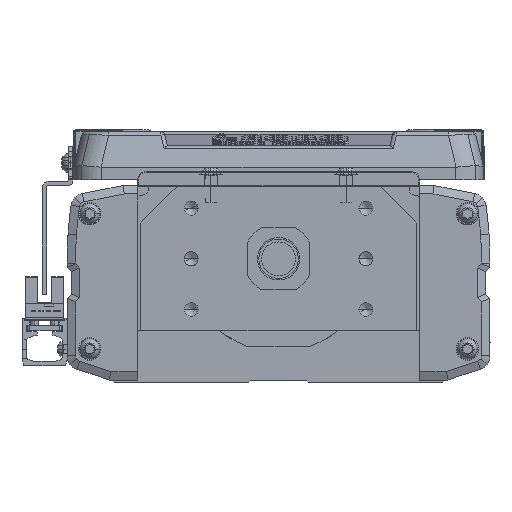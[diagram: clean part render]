
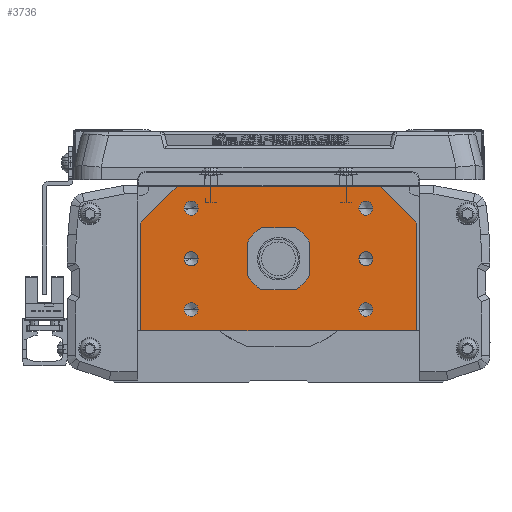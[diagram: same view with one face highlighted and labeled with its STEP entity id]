
A CAD part, left-side view. The second image highlights one B-rep face of the part: STEP entity #3736.
In plain terms, the highlighted planar face has unit normal (-1, 0, 0).
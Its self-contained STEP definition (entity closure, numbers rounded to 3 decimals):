
#3736=ADVANCED_FACE('',(#9826,#9827,#9828,#9829,#9830,#9831,#9832,#9833),#9834,.F.);
#9826=FACE_OUTER_BOUND('',#19182,.T.);
#9827=FACE_BOUND('',#19183,.T.);
#9828=FACE_BOUND('',#19184,.T.);
#9829=FACE_BOUND('',#19185,.T.);
#9830=FACE_BOUND('',#19186,.T.);
#9831=FACE_BOUND('',#19187,.T.);
#9832=FACE_BOUND('',#19188,.T.);
#9833=FACE_BOUND('',#19189,.T.);
#9834=PLANE('',#19190);
#19182=EDGE_LOOP('',(#30288,#30289,#30290,#30291,#30292,#30293,#30294,#30295));
#19183=EDGE_LOOP('',(#30296,#30297));
#19184=EDGE_LOOP('',(#30298,#30299));
#19185=EDGE_LOOP('',(#30300,#30301));
#19186=EDGE_LOOP('',(#30302,#30303));
#19187=EDGE_LOOP('',(#30304,#30305));
#19188=EDGE_LOOP('',(#30306,#30307));
#19189=EDGE_LOOP('',(#30308,#30309));
#19190=AXIS2_PLACEMENT_3D('',#30310,#30311,#30312);
#30288=ORIENTED_EDGE('',*,*,#55149,.F.);
#30289=ORIENTED_EDGE('',*,*,#55150,.F.);
#30290=ORIENTED_EDGE('',*,*,#55151,.F.);
#30291=ORIENTED_EDGE('',*,*,#55152,.F.);
#30292=ORIENTED_EDGE('',*,*,#55153,.F.);
#30293=ORIENTED_EDGE('',*,*,#55154,.F.);
#30294=ORIENTED_EDGE('',*,*,#55155,.F.);
#30295=ORIENTED_EDGE('',*,*,#55036,.F.);
#30296=ORIENTED_EDGE('',*,*,#55156,.T.);
#30297=ORIENTED_EDGE('',*,*,#55157,.T.);
#30298=ORIENTED_EDGE('',*,*,#55158,.T.);
#30299=ORIENTED_EDGE('',*,*,#55159,.T.);
#30300=ORIENTED_EDGE('',*,*,#55160,.T.);
#30301=ORIENTED_EDGE('',*,*,#55161,.T.);
#30302=ORIENTED_EDGE('',*,*,#55162,.T.);
#30303=ORIENTED_EDGE('',*,*,#55163,.T.);
#30304=ORIENTED_EDGE('',*,*,#55164,.T.);
#30305=ORIENTED_EDGE('',*,*,#55165,.T.);
#30306=ORIENTED_EDGE('',*,*,#55166,.T.);
#30307=ORIENTED_EDGE('',*,*,#55167,.T.);
#30308=ORIENTED_EDGE('',*,*,#55168,.F.);
#30309=ORIENTED_EDGE('',*,*,#55169,.F.);
#30310=CARTESIAN_POINT('',(0.,0.275,-2.548));
#30311=DIRECTION('',(1.0,0.,0.));
#30312=DIRECTION('',(0.,1.0,0.));
#55036=EDGE_CURVE('',#65763,#65766,#65767,.T.);
#55149=EDGE_CURVE('',#65964,#65763,#65965,.T.);
#55150=EDGE_CURVE('',#65966,#65964,#65967,.T.);
#55151=EDGE_CURVE('',#65968,#65966,#65969,.T.);
#55152=EDGE_CURVE('',#65970,#65968,#65971,.T.);
#55153=EDGE_CURVE('',#65972,#65970,#65973,.T.);
#55154=EDGE_CURVE('',#65974,#65972,#65975,.T.);
#55155=EDGE_CURVE('',#65766,#65974,#65976,.T.);
#55156=EDGE_CURVE('',#65977,#65978,#65979,.T.);
#55157=EDGE_CURVE('',#65978,#65977,#65980,.T.);
#55158=EDGE_CURVE('',#65981,#65982,#65983,.T.);
#55159=EDGE_CURVE('',#65982,#65981,#65984,.T.);
#55160=EDGE_CURVE('',#65985,#65986,#65987,.T.);
#55161=EDGE_CURVE('',#65986,#65985,#65988,.T.);
#55162=EDGE_CURVE('',#65989,#65990,#65991,.T.);
#55163=EDGE_CURVE('',#65990,#65989,#65992,.T.);
#55164=EDGE_CURVE('',#65993,#65994,#65995,.T.);
#55165=EDGE_CURVE('',#65994,#65993,#65996,.T.);
#55166=EDGE_CURVE('',#65997,#65998,#65999,.T.);
#55167=EDGE_CURVE('',#65998,#65997,#66000,.T.);
#55168=EDGE_CURVE('',#66001,#66002,#66003,.F.);
#55169=EDGE_CURVE('',#66002,#66001,#66004,.F.);
#65763=VERTEX_POINT('',#81069);
#65766=VERTEX_POINT('',#81073);
#65767=LINE('',#81074,#81075);
#65964=VERTEX_POINT('',#81329);
#65965=LINE('',#81330,#81331);
#65966=VERTEX_POINT('',#81332);
#65967=LINE('',#81333,#81334);
#65968=VERTEX_POINT('',#81335);
#65969=LINE('',#81336,#81337);
#65970=VERTEX_POINT('',#81338);
#65971=LINE('',#81339,#81340);
#65972=VERTEX_POINT('',#81341);
#65973=LINE('',#81342,#81343);
#65974=VERTEX_POINT('',#81344);
#65975=LINE('',#81345,#81346);
#65976=LINE('',#81347,#81348);
#65977=VERTEX_POINT('',#81349);
#65978=VERTEX_POINT('',#81350);
#65979=CIRCLE('',#81351,2.5);
#65980=CIRCLE('',#81352,2.5);
#65981=VERTEX_POINT('',#81353);
#65982=VERTEX_POINT('',#81354);
#65983=CIRCLE('',#81355,2.5);
#65984=CIRCLE('',#81356,2.5);
#65985=VERTEX_POINT('',#81357);
#65986=VERTEX_POINT('',#81358);
#65987=CIRCLE('',#81359,2.5);
#65988=CIRCLE('',#81360,2.5);
#65989=VERTEX_POINT('',#81361);
#65990=VERTEX_POINT('',#81362);
#65991=CIRCLE('',#81363,2.5);
#65992=CIRCLE('',#81364,2.5);
#65993=VERTEX_POINT('',#81365);
#65994=VERTEX_POINT('',#81366);
#65995=CIRCLE('',#81367,2.5);
#65996=CIRCLE('',#81368,2.5);
#65997=VERTEX_POINT('',#81369);
#65998=VERTEX_POINT('',#81370);
#65999=CIRCLE('',#81371,2.5);
#66000=CIRCLE('',#81372,2.5);
#66001=VERTEX_POINT('',#81373);
#66002=VERTEX_POINT('',#81374);
#66003=CIRCLE('',#81375,7.5);
#66004=CIRCLE('',#81376,7.5);
#81069=CARTESIAN_POINT('',(0.,36.,25.7));
#81073=CARTESIAN_POINT('',(0.,-36.,25.7));
#81074=CARTESIAN_POINT('',(0.,34.5,25.7));
#81075=VECTOR('',#101608,10.0);
#81329=CARTESIAN_POINT('',(0.,49.,12.7));
#81330=CARTESIAN_POINT('',(0.,37.381,24.319));
#81331=VECTOR('',#101768,10.);
#81332=CARTESIAN_POINT('',(0.,49.,-25.));
#81333=CARTESIAN_POINT('',(0.,49.,-25.));
#81334=VECTOR('',#101769,10.0);
#81335=CARTESIAN_POINT('',(0.,48.5,-25.5));
#81336=CARTESIAN_POINT('',(0.,48.5,-25.5));
#81337=VECTOR('',#101770,10.0);
#81338=CARTESIAN_POINT('',(0.,-48.5,-25.5));
#81339=CARTESIAN_POINT('',(0.,0.,-25.5));
#81340=VECTOR('',#101771,10.0);
#81341=CARTESIAN_POINT('',(0.,-49.,-25.));
#81342=CARTESIAN_POINT('',(0.,-49.,-25.));
#81343=VECTOR('',#101772,10.0);
#81344=CARTESIAN_POINT('',(0.,-49.,12.7));
#81345=CARTESIAN_POINT('',(0.,-49.,-14.));
#81346=VECTOR('',#101773,10.0);
#81347=CARTESIAN_POINT('',(0.,-37.243,24.457));
#81348=VECTOR('',#101774,10.0);
#81349=CARTESIAN_POINT('',(0.,33.5,-18.));
#81350=CARTESIAN_POINT('',(0.,28.5,-18.));
#81351=AXIS2_PLACEMENT_3D('',#101775,#101776,#101777);
#81352=AXIS2_PLACEMENT_3D('',#101778,#101779,#101780);
#81353=CARTESIAN_POINT('',(0.,-33.5,-18.));
#81354=CARTESIAN_POINT('',(0.,-28.5,-18.));
#81355=AXIS2_PLACEMENT_3D('',#101781,#101782,#101783);
#81356=AXIS2_PLACEMENT_3D('',#101784,#101785,#101786);
#81357=CARTESIAN_POINT('',(0.,33.5,18.));
#81358=CARTESIAN_POINT('',(0.,28.5,18.));
#81359=AXIS2_PLACEMENT_3D('',#101787,#101788,#101789);
#81360=AXIS2_PLACEMENT_3D('',#101790,#101791,#101792);
#81361=CARTESIAN_POINT('',(0.,-33.5,18.));
#81362=CARTESIAN_POINT('',(0.,-28.5,18.));
#81363=AXIS2_PLACEMENT_3D('',#101793,#101794,#101795);
#81364=AXIS2_PLACEMENT_3D('',#101796,#101797,#101798);
#81365=CARTESIAN_POINT('',(0.,33.5,0.));
#81366=CARTESIAN_POINT('',(0.,28.5,0.));
#81367=AXIS2_PLACEMENT_3D('',#101799,#101800,#101801);
#81368=AXIS2_PLACEMENT_3D('',#101802,#101803,#101804);
#81369=CARTESIAN_POINT('',(0.,-33.5,0.));
#81370=CARTESIAN_POINT('',(0.,-28.5,0.));
#81371=AXIS2_PLACEMENT_3D('',#101805,#101806,#101807);
#81372=AXIS2_PLACEMENT_3D('',#101808,#101809,#101810);
#81373=CARTESIAN_POINT('',(0.,7.5,0.));
#81374=CARTESIAN_POINT('',(0.,-7.5,0.));
#81375=AXIS2_PLACEMENT_3D('',#101811,#101812,#101813);
#81376=AXIS2_PLACEMENT_3D('',#101814,#101815,#101816);
#101608=DIRECTION('',(0.,-1.0,0.));
#101768=DIRECTION('',(0.,-0.707,0.707));
#101769=DIRECTION('',(0.,0.,1.0));
#101770=DIRECTION('',(0.,0.707,0.707));
#101771=DIRECTION('',(0.,1.0,0.));
#101772=DIRECTION('',(0.,0.707,-0.707));
#101773=DIRECTION('',(0.,0.,-1.0));
#101774=DIRECTION('',(0.,-0.707,-0.707));
#101775=CARTESIAN_POINT('',(0.,31.,-18.));
#101776=DIRECTION('',(1.0,0.,0.));
#101777=DIRECTION('',(0.,1.0,0.));
#101778=CARTESIAN_POINT('',(0.,31.,-18.));
#101779=DIRECTION('',(1.0,0.,0.));
#101780=DIRECTION('',(0.,1.0,0.));
#101781=CARTESIAN_POINT('',(0.,-31.,-18.));
#101782=DIRECTION('',(1.0,0.,0.));
#101783=DIRECTION('',(0.,-1.0,0.));
#101784=CARTESIAN_POINT('',(0.,-31.,-18.));
#101785=DIRECTION('',(1.0,0.,0.));
#101786=DIRECTION('',(0.,-1.0,0.));
#101787=CARTESIAN_POINT('',(0.,31.,18.));
#101788=DIRECTION('',(1.0,0.,0.));
#101789=DIRECTION('',(0.,1.0,0.));
#101790=CARTESIAN_POINT('',(0.,31.,18.));
#101791=DIRECTION('',(1.0,0.,0.));
#101792=DIRECTION('',(0.,1.0,0.));
#101793=CARTESIAN_POINT('',(0.,-31.,18.));
#101794=DIRECTION('',(1.0,0.,0.));
#101795=DIRECTION('',(0.,-1.0,0.));
#101796=CARTESIAN_POINT('',(0.,-31.,18.));
#101797=DIRECTION('',(1.0,0.,0.));
#101798=DIRECTION('',(0.,-1.0,0.));
#101799=CARTESIAN_POINT('',(0.,31.,0.));
#101800=DIRECTION('',(1.0,0.,0.));
#101801=DIRECTION('',(0.,1.0,0.));
#101802=CARTESIAN_POINT('',(0.,31.,0.));
#101803=DIRECTION('',(1.0,0.,0.));
#101804=DIRECTION('',(0.,1.0,0.));
#101805=CARTESIAN_POINT('',(0.,-31.,0.));
#101806=DIRECTION('',(1.0,0.,0.));
#101807=DIRECTION('',(0.,-1.0,0.));
#101808=CARTESIAN_POINT('',(0.,-31.,0.));
#101809=DIRECTION('',(1.0,0.,0.));
#101810=DIRECTION('',(0.,-1.0,0.));
#101811=CARTESIAN_POINT('',(0.,0.,0.));
#101812=DIRECTION('',(1.0,0.,0.));
#101813=DIRECTION('',(0.,-1.0,0.));
#101814=CARTESIAN_POINT('',(0.,0.,0.));
#101815=DIRECTION('',(1.0,0.,0.));
#101816=DIRECTION('',(0.,-1.0,0.));
